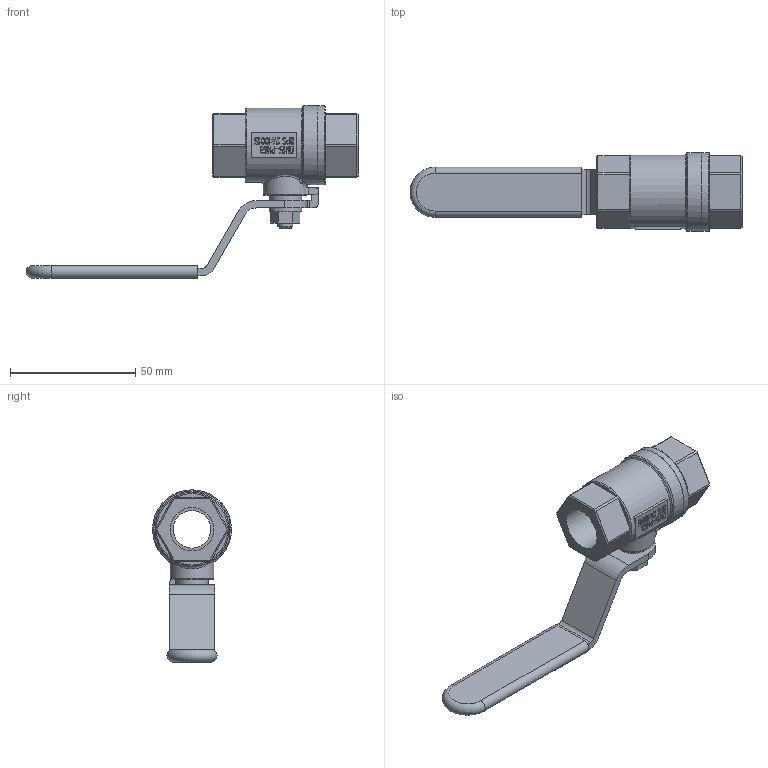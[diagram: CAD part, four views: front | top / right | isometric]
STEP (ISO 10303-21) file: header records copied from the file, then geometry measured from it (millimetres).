
FILE_DESCRIPTION( ( 'Unknown' ), '1' );
FILE_NAME( 'C:/Documents and Settings/Klaus/My Documents/Rootsi BPS 3D, Klaus/BPS 2410 ball valve, 2-pcs/STEP/BPS2410015 ball valve DN15.stp', 'Unknown', ( 'Unknown' ), ( 'Unknown' ), 'PSStep 10.1', 'Unknown', ' ' );
FILE_SCHEMA( ( 'AUTOMOTIVE_DESIGN { 1 0 10303 214 1 1 1 1 }' ) );
Length unit declared in the file: millimetre
Products named in the file (2): 1; 2
Bounding box: 132.5 x 31.5 x 68.75 mm (x, y, z)
Volume: 37653.4 mm3; surface area: 16721.3 mm2
Topology: 2 solids, 2 shells, 307 faces, 752 edges, 484 vertices
Faces by surface type: plane 222, extrusion 46, cylinder 24, bspline 8, torus 6, cone 1
Full cylindrical faces by diameter (mm): 6 x1, 13 x2, 15 x2, 17.294 x2, 17.5 x1, 29.5 x1, 31.5 x2
Entity records: 14676 total; most frequent: CARTESIAN_POINT 5707, ORIENTED_EDGE 1446, DIRECTION 1024, EDGE_CURVE 723, VERTEX_POINT 476, VECTOR 376, B_SPLINE_CURVE_WITH_KNOTS 370, EDGE_LOOP 367
